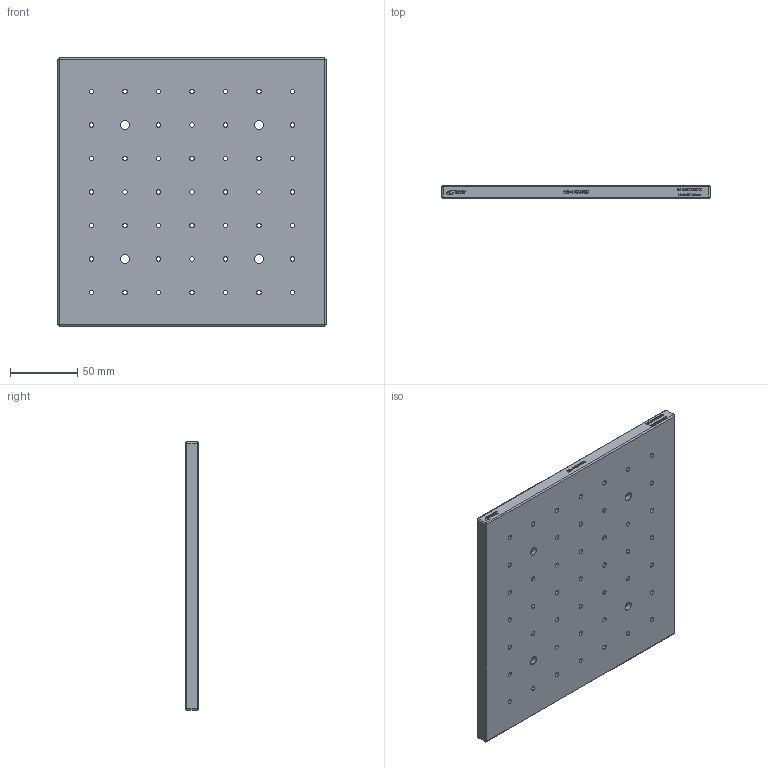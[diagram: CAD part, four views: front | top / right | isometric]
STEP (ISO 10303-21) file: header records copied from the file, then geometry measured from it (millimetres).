
FILE_DESCRIPTION (( 'STEP AP203' ), '1' );
FILE_NAME ('AIB-4-200-200(«¬¿ý).STEP', '2014-11-28T07:32:20', ( 'user' ), ( '' ), 'SwSTEP 2.0', 'SolidWorks 2014', '' );
FILE_SCHEMA (( 'CONFIG_CONTROL_DESIGN' ));
Length unit declared in the file: millimetre
Products named in the file (1): AIB-4-200-200(型錄)
Bounding box: 200 x 10 x 200 mm (x, y, z)
Volume: 392627.7 mm3; surface area: 92208.5 mm2
Topology: 1 solids, 1 shells, 683 faces, 1841 edges, 1214 vertices
Faces by surface type: plane 370, cylinder 162, bspline 143, sphere 8
Entity records: 29434 total; most frequent: CARTESIAN_POINT 12714, ORIENTED_EDGE 3666, DIRECTION 2953, EDGE_CURVE 1833, LINE 1223, VECTOR 1223, VERTEX_POINT 1214, AXIS2_PLACEMENT_3D 865
